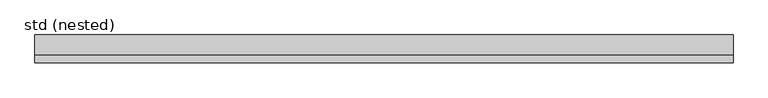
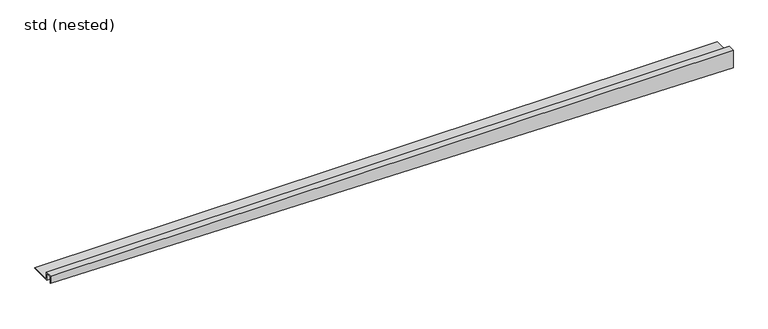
"""IFC4 building model written with IfcOpenShell, lengths in millimetres: sanitary terminal geometry, ZZZ_do not use_PF_ST_UN_ShowerStep_ACO : std (nested)."""

from ifc_helpers import new_model, si_unit, origin, place, context, project, spatial, faceted_brep, source, transform, mapped, element, save


def std_nested_eaeeacca(model_context):
    return source(origin(), model_context, "Body", "Brep", [
        faceted_brep([(0.0, 12.0076915, -12.5), (0.0, 46.0004219, -12.5), (0.0, 46.0004219, -13.5), (0.0, 11.0004219, -13.5), (0.0, 11.0004219, -1.0), (0.0, 1.0, -1.0), (0.0, 1.0, -12.5), (0.0, 0.0, -12.5), (0.0, 0.0, 0.0), (0.0, 12.0076915, 0.0), (1160.0, 12.0076915, 0.0), (1160.0, 12.0076915, -12.5), (1160.0, 0.0, 0.0), (1160.0, 0.0, -30.795302), (1160.0, 1.0, -30.795302), (1160.0, 1.0, -1.0), (1160.0, 11.0004219, -1.0), (1160.0, 11.0004219, -13.5), (1160.0, 46.0004219, -13.5), (1160.0, 46.0004219, -12.5)], [[[0, 1, 2, 3, 4, 5, 6, 7, 8, 9]], [[0, 9, 10, 11]], [[9, 8, 12, 10]], [[8, 7, 13, 12]], [[7, 6, 14, 13]], [[6, 5, 15, 14]], [[5, 4, 16, 15]], [[4, 3, 17, 16]], [[3, 2, 18, 17]], [[2, 1, 19, 18]], [[1, 0, 11, 19]], [[11, 10, 12, 13, 14, 15, 16, 17, 18, 19]]]),
    ])


if __name__ == "__main__":
    model = new_model("IFC4")
    model_context = context("Model", 3, world=origin())
    ifc_project = project(units=[si_unit("LENGTHUNIT", "METRE", prefix="MILLI")], contexts=[model_context])
    site = spatial("IfcSite", under=ifc_project)
    building = spatial("IfcBuilding", under=site)
    placement = place(None, origin())
    std_nested_shape = std_nested_eaeeacca(model_context)
    element("IfcSanitaryTerminal", 1, ObjectType="ZZZ_do not use_PF_ST_UN_ShowerStep_ACO : std (nested)", at=placement, inside=building, context=model_context, shape_type="MappedRepresentation", body=[
        mapped(std_nested_shape, transform((0.0, 0.0, 0.0), x_axis=(1.0, 0.0, 0.0), y_axis=(0.0, 1.0, 0.0), z_axis=(0.0, 0.0, 1.0))),
    ])
    save(model, "model.ifc")
